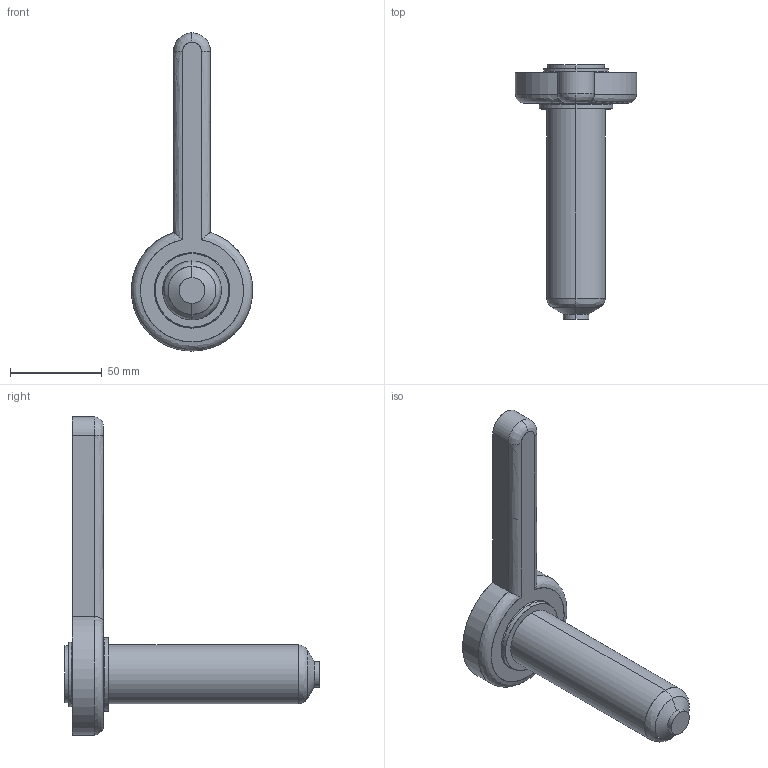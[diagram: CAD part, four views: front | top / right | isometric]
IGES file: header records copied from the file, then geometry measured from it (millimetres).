
Start section: SolidWorks IGES file using analytic representation for surfaces
Global section: file name: C:\Documents and Settings\ws-20\Desktop\TEMPORANEA\Sede UGBE4003-S-A C-114 L-136 P-0.IGS; native system: SolidWorks 2012; preprocessor: SolidWorks 2012; author: ws-20; date: 120306.141552; units: millimetre
Bounding box: 65.99 x 138.29 x 173 mm (x, y, z)
Surface area: 28781.5 mm2 (no closed solid volume)
Topology: 0 solids, 0 shells, 34 faces, 786 edges, 786 vertices
Faces by surface type: revolution 21, bspline 13
